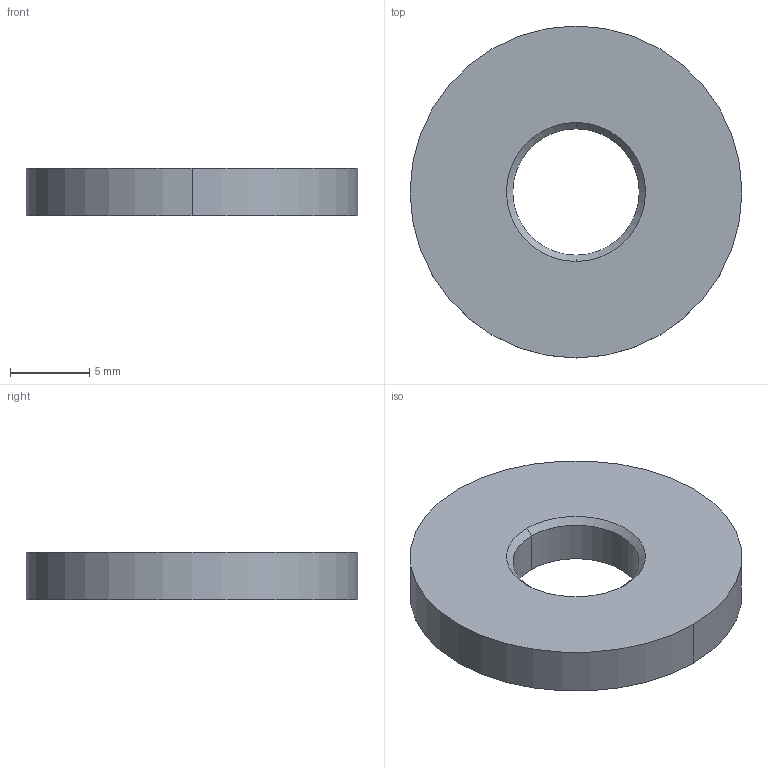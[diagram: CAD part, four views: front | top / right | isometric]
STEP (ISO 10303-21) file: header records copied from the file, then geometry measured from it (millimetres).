
FILE_DESCRIPTION((''),'2;1');
FILE_NAME('1-KMRW_40KN','2019-12-04T',('ESCHE'),(''),'CREO PARAMETRIC BY PTC INC, 2017170','CREO PARAMETRIC BY PTC INC, 2017170','');
FILE_SCHEMA(('AUTOMOTIVE_DESIGN { 1 0 10303 214 1 1 1 1 }'));
Length unit declared in the file: millimetre
Products named in the file (1): 1-KMRW_40KN
Bounding box: 21 x 21 x 3 mm (x, y, z)
Volume: 886.2 mm3; surface area: 859.8 mm2
Topology: 1 solids, 1 shells, 8 faces, 16 edges, 10 vertices
Faces by surface type: bspline 8
Entity records: 369 total; most frequent: CARTESIAN_POINT 144, ORIENTED_EDGE 32, DIRECTION 26, COLOUR_RGB 21, EDGE_CURVE 16, AXIS2_PLACEMENT_3D 10, VERTEX_POINT 10, EDGE_LOOP 10
